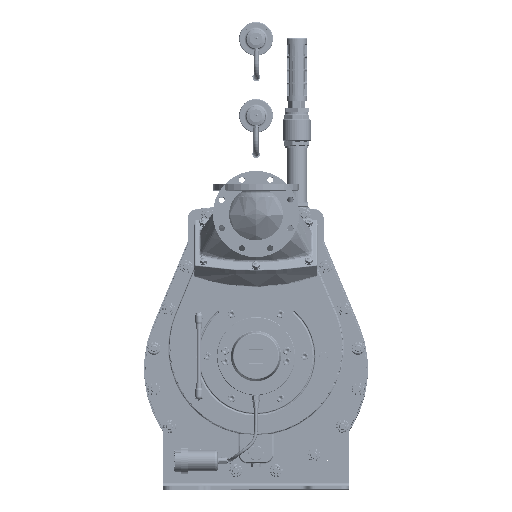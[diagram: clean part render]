
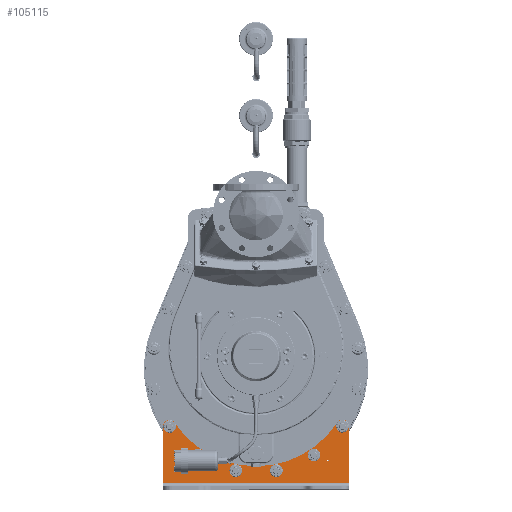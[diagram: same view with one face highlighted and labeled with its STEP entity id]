
A CAD part, top view. The second image highlights one B-rep face of the part: STEP entity #105115.
In plain terms, the highlighted planar face has unit normal (0, 0, 1) as drawn and (1, 0, 0) by its records, which use the part's own axes.
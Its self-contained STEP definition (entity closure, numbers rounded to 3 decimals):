
#12726=FACE_BOUND('',#21890,.T.);
#12727=FACE_BOUND('',#21891,.T.);
#12728=FACE_BOUND('',#21892,.T.);
#12729=FACE_BOUND('',#21893,.T.);
#12730=FACE_BOUND('',#21894,.T.);
#12731=FACE_BOUND('',#21895,.T.);
#12732=FACE_BOUND('',#21896,.T.);
#12733=FACE_BOUND('',#21897,.T.);
#13467=PLANE('',#112688);
#15720=FACE_OUTER_BOUND('',#21889,.T.);
#21889=EDGE_LOOP('',(#71818,#71819,#71820,#71821,#71822,#71823,#71824,#71825,
#71826,#71827));
#21890=EDGE_LOOP('',(#71828));
#21891=EDGE_LOOP('',(#71829));
#21892=EDGE_LOOP('',(#71830));
#21893=EDGE_LOOP('',(#71831));
#21894=EDGE_LOOP('',(#71832));
#21895=EDGE_LOOP('',(#71833));
#21896=EDGE_LOOP('',(#71834));
#21897=EDGE_LOOP('',(#71835));
#28798=LINE('',#144835,#35524);
#28800=LINE('',#144841,#35526);
#28801=LINE('',#144845,#35527);
#28802=LINE('',#144853,#35528);
#28803=LINE('',#144856,#35529);
#35524=VECTOR('',#121164,10.);
#35526=VECTOR('',#121170,10.);
#35527=VECTOR('',#121173,10.);
#35528=VECTOR('',#121180,10.);
#35529=VECTOR('',#121183,10.);
#42252=CIRCLE('',#112689,15.);
#42253=CIRCLE('',#112690,15.);
#42254=CIRCLE('',#112691,231.);
#42255=CIRCLE('',#112692,15.);
#42256=CIRCLE('',#112693,15.);
#42257=CIRCLE('',#112694,2.067);
#42258=CIRCLE('',#112695,2.067);
#42259=CIRCLE('',#112696,9.);
#42260=CIRCLE('',#112697,9.);
#42261=CIRCLE('',#112698,9.);
#42262=CIRCLE('',#112699,9.);
#42263=CIRCLE('',#112700,9.);
#42264=CIRCLE('',#112701,9.);
#45703=VERTEX_POINT('',#144832);
#45704=VERTEX_POINT('',#144834);
#45706=VERTEX_POINT('',#144840);
#45707=VERTEX_POINT('',#144842);
#45708=VERTEX_POINT('',#144844);
#45709=VERTEX_POINT('',#144846);
#45710=VERTEX_POINT('',#144848);
#45711=VERTEX_POINT('',#144850);
#45712=VERTEX_POINT('',#144852);
#45713=VERTEX_POINT('',#144854);
#45714=VERTEX_POINT('',#144857);
#45715=VERTEX_POINT('',#144859);
#45716=VERTEX_POINT('',#144861);
#45717=VERTEX_POINT('',#144863);
#45718=VERTEX_POINT('',#144865);
#45719=VERTEX_POINT('',#144867);
#45720=VERTEX_POINT('',#144869);
#45721=VERTEX_POINT('',#144871);
#55941=EDGE_CURVE('',#45703,#45704,#28798,.T.);
#55944=EDGE_CURVE('',#45706,#45703,#28800,.T.);
#55945=EDGE_CURVE('',#45707,#45706,#42252,.T.);
#55946=EDGE_CURVE('',#45708,#45707,#28801,.T.);
#55947=EDGE_CURVE('',#45709,#45708,#42253,.T.);
#55948=EDGE_CURVE('',#45709,#45710,#42254,.T.);
#55949=EDGE_CURVE('',#45711,#45710,#42255,.T.);
#55950=EDGE_CURVE('',#45712,#45711,#28802,.T.);
#55951=EDGE_CURVE('',#45713,#45712,#42256,.T.);
#55952=EDGE_CURVE('',#45704,#45713,#28803,.T.);
#55953=EDGE_CURVE('',#45714,#45714,#42257,.T.);
#55954=EDGE_CURVE('',#45715,#45715,#42258,.T.);
#55955=EDGE_CURVE('',#45716,#45716,#42259,.T.);
#55956=EDGE_CURVE('',#45717,#45717,#42260,.T.);
#55957=EDGE_CURVE('',#45718,#45718,#42261,.T.);
#55958=EDGE_CURVE('',#45719,#45719,#42262,.T.);
#55959=EDGE_CURVE('',#45720,#45720,#42263,.T.);
#55960=EDGE_CURVE('',#45721,#45721,#42264,.T.);
#71818=ORIENTED_EDGE('',*,*,#55941,.F.);
#71819=ORIENTED_EDGE('',*,*,#55944,.F.);
#71820=ORIENTED_EDGE('',*,*,#55945,.F.);
#71821=ORIENTED_EDGE('',*,*,#55946,.F.);
#71822=ORIENTED_EDGE('',*,*,#55947,.F.);
#71823=ORIENTED_EDGE('',*,*,#55948,.T.);
#71824=ORIENTED_EDGE('',*,*,#55949,.F.);
#71825=ORIENTED_EDGE('',*,*,#55950,.F.);
#71826=ORIENTED_EDGE('',*,*,#55951,.F.);
#71827=ORIENTED_EDGE('',*,*,#55952,.F.);
#71828=ORIENTED_EDGE('',*,*,#55953,.T.);
#71829=ORIENTED_EDGE('',*,*,#55954,.T.);
#71830=ORIENTED_EDGE('',*,*,#55955,.T.);
#71831=ORIENTED_EDGE('',*,*,#55956,.T.);
#71832=ORIENTED_EDGE('',*,*,#55957,.T.);
#71833=ORIENTED_EDGE('',*,*,#55958,.T.);
#71834=ORIENTED_EDGE('',*,*,#55959,.T.);
#71835=ORIENTED_EDGE('',*,*,#55960,.T.);
#105115=ADVANCED_FACE('',(#15720,#12726,#12727,#12728,#12729,#12730,#12731,
#12732,#12733),#13467,.T.);
#112688=AXIS2_PLACEMENT_3D('',#144839,#121168,#121169);
#112689=AXIS2_PLACEMENT_3D('',#144843,#121171,#121172);
#112690=AXIS2_PLACEMENT_3D('',#144847,#121174,#121175);
#112691=AXIS2_PLACEMENT_3D('',#144849,#121176,#121177);
#112692=AXIS2_PLACEMENT_3D('',#144851,#121178,#121179);
#112693=AXIS2_PLACEMENT_3D('',#144855,#121181,#121182);
#112694=AXIS2_PLACEMENT_3D('',#144858,#121184,#121185);
#112695=AXIS2_PLACEMENT_3D('',#144860,#121186,#121187);
#112696=AXIS2_PLACEMENT_3D('',#144862,#121188,#121189);
#112697=AXIS2_PLACEMENT_3D('',#144864,#121190,#121191);
#112698=AXIS2_PLACEMENT_3D('',#144866,#121192,#121193);
#112699=AXIS2_PLACEMENT_3D('',#144868,#121194,#121195);
#112700=AXIS2_PLACEMENT_3D('',#144870,#121196,#121197);
#112701=AXIS2_PLACEMENT_3D('',#144872,#121198,#121199);
#121164=DIRECTION('',(0.,0.,1.));
#121168=DIRECTION('center_axis',(1.,0.,0.));
#121169=DIRECTION('ref_axis',(0.,0.,-1.));
#121170=DIRECTION('',(0.,-1.,0.));
#121171=DIRECTION('center_axis',(-1.,0.,0.));
#121172=DIRECTION('ref_axis',(0.,0.707,-0.707));
#121173=DIRECTION('',(0.,0.,-1.));
#121174=DIRECTION('center_axis',(-1.,0.,0.));
#121175=DIRECTION('ref_axis',(0.,0.881,0.473));
#121176=DIRECTION('center_axis',(-1.,0.,0.));
#121177=DIRECTION('ref_axis',(0.,0.,-1.));
#121178=DIRECTION('center_axis',(-1.,0.,0.));
#121179=DIRECTION('ref_axis',(0.,0.881,-0.473));
#121180=DIRECTION('',(0.,0.,-1.));
#121181=DIRECTION('center_axis',(-1.,0.,0.));
#121182=DIRECTION('ref_axis',(0.,0.707,0.707));
#121183=DIRECTION('',(0.,1.,0.));
#121184=DIRECTION('center_axis',(-1.,0.,0.));
#121185=DIRECTION('ref_axis',(0.,0.,
-1.));
#121186=DIRECTION('center_axis',(-1.,0.,0.));
#121187=DIRECTION('ref_axis',(0.,0.,
-1.));
#121188=DIRECTION('center_axis',(-1.,0.,0.));
#121189=DIRECTION('ref_axis',(0.,0.,-1.));
#121190=DIRECTION('center_axis',(-1.,0.,0.));
#121191=DIRECTION('ref_axis',(0.,0.,-1.));
#121192=DIRECTION('center_axis',(-1.,0.,0.));
#121193=DIRECTION('ref_axis',(0.,0.,-1.));
#121194=DIRECTION('center_axis',(-1.,0.,0.));
#121195=DIRECTION('ref_axis',(0.,0.,-1.));
#121196=DIRECTION('center_axis',(-1.,0.,0.));
#121197=DIRECTION('ref_axis',(0.,0.,-1.));
#121198=DIRECTION('center_axis',(-1.,0.,0.));
#121199=DIRECTION('ref_axis',(0.,0.,-1.));
#144832=CARTESIAN_POINT('',(8.,16.,-220.));
#144834=CARTESIAN_POINT('',(8.,16.,220.));
#144835=CARTESIAN_POINT('',(8.,16.,0.));
#144839=CARTESIAN_POINT('Origin',(8.,58.,0.));
#144840=CARTESIAN_POINT('',(8.,150.,-220.));
#144841=CARTESIAN_POINT('',(8.,0.,-220.));
#144842=CARTESIAN_POINT('',(8.,165.,-205.));
#144843=CARTESIAN_POINT('Origin',(8.,150.,-205.));
#144844=CARTESIAN_POINT('',(8.,165.,-204.988));
#144845=CARTESIAN_POINT('',(8.,165.,-220.));
#144846=CARTESIAN_POINT('',(8.,158.293,-192.489));
#144847=CARTESIAN_POINT('Origin',(8.,150.,-204.988));
#144848=CARTESIAN_POINT('',(8.,158.293,192.489));
#144849=CARTESIAN_POINT('Origin',(8.,286.,0.));
#144850=CARTESIAN_POINT('',(8.,165.,204.988));
#144851=CARTESIAN_POINT('Origin',(8.,150.,204.988));
#144852=CARTESIAN_POINT('',(8.,165.,205.));
#144853=CARTESIAN_POINT('',(8.,165.,-220.));
#144854=CARTESIAN_POINT('',(8.,150.,220.));
#144855=CARTESIAN_POINT('Origin',(8.,150.,205.));
#144856=CARTESIAN_POINT('',(8.,165.,220.));
#144857=CARTESIAN_POINT('',(8.,68.,-167.933));
#144858=CARTESIAN_POINT('Origin',(8.,68.,-170.));
#144859=CARTESIAN_POINT('',(8.,68.,172.067));
#144860=CARTESIAN_POINT('Origin',(8.,68.,170.));
#144861=CARTESIAN_POINT('',(8.,149.33,213.542));
#144862=CARTESIAN_POINT('Origin',(8.,149.33,204.542));
#144863=CARTESIAN_POINT('',(8.,44.727,56.992));
#144864=CARTESIAN_POINT('Origin',(8.,44.727,47.992));
#144865=CARTESIAN_POINT('',(8.,81.458,-127.67));
#144866=CARTESIAN_POINT('Origin',(8.,81.458,-136.67));
#144867=CARTESIAN_POINT('',(8.,149.33,-195.542));
#144868=CARTESIAN_POINT('Origin',(8.,149.33,-204.542));
#144869=CARTESIAN_POINT('',(8.,44.727,-38.992));
#144870=CARTESIAN_POINT('Origin',(8.,44.727,-47.992));
#144871=CARTESIAN_POINT('',(8.,81.458,145.67));
#144872=CARTESIAN_POINT('Origin',(8.,81.458,136.67));
